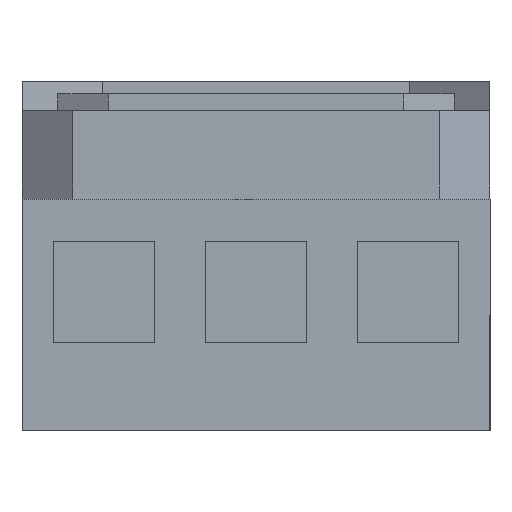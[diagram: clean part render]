
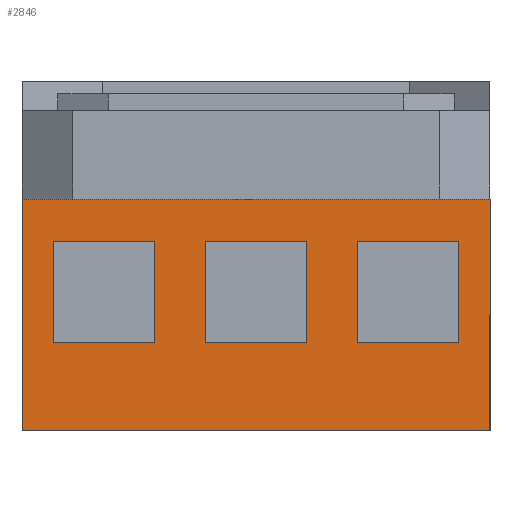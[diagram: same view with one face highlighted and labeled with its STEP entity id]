
A CAD part, front view. The second image highlights one B-rep face of the part: STEP entity #2846.
In plain terms, the highlighted planar face has unit normal (0, -1, 0).
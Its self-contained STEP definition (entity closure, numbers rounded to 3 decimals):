
#8 = VECTOR ( 'NONE', #3144, 1000. ) ;
#77 = VECTOR ( 'NONE', #1529, 1000. ) ;
#100 = VERTEX_POINT ( 'NONE', #267 ) ;
#125 = CARTESIAN_POINT ( 'NONE',  ( 55.5, -101., 83. ) ) ;
#172 = CARTESIAN_POINT ( 'NONE',  ( 12., -101., 21. ) ) ;
#228 = LINE ( 'NONE', #2568, #767 ) ;
#267 = CARTESIAN_POINT ( 'NONE',  ( -55.5, -101., 55. ) ) ;
#311 = DIRECTION ( 'NONE',  ( -1., 0., 0. ) ) ;
#316 = CARTESIAN_POINT ( 'NONE',  ( -48., -101., 45. ) ) ;
#318 = CARTESIAN_POINT ( 'NONE',  ( 55.5, -101., 55. ) ) ;
#357 = DIRECTION ( 'NONE',  ( 0., 0., -1. ) ) ;
#373 = VECTOR ( 'NONE', #1231, 1000. ) ;
#387 = CARTESIAN_POINT ( 'NONE',  ( -12., -101., 21. ) ) ;
#405 = VECTOR ( 'NONE', #357, 1000. ) ;
#437 = VECTOR ( 'NONE', #3073, 1000. ) ;
#445 = ORIENTED_EDGE ( 'NONE', *, *, #2459, .F. ) ;
#470 = VECTOR ( 'NONE', #2879, 1000. ) ;
#503 = FACE_OUTER_BOUND ( 'NONE', #2246, .T. ) ;
#512 = VERTEX_POINT ( 'NONE', #172 ) ;
#524 = ORIENTED_EDGE ( 'NONE', *, *, #2429, .F. ) ;
#530 = VERTEX_POINT ( 'NONE', #3210 ) ;
#588 = PLANE ( 'NONE',  #2073 ) ;
#619 = LINE ( 'NONE', #1273, #77 ) ;
#693 = VECTOR ( 'NONE', #1515, 1000. ) ;
#755 = ORIENTED_EDGE ( 'NONE', *, *, #2266, .T. ) ;
#757 = CARTESIAN_POINT ( 'NONE',  ( 24., -101., 21. ) ) ;
#767 = VECTOR ( 'NONE', #311, 1000. ) ;
#818 = VECTOR ( 'NONE', #1948, 1000. ) ;
#920 = VECTOR ( 'NONE', #2824, 1000. ) ;
#982 = DIRECTION ( 'NONE',  ( 0., 0., 1. ) ) ;
#1013 = CARTESIAN_POINT ( 'NONE',  ( -12., -101., 21. ) ) ;
#1025 = LINE ( 'NONE', #1061, #1687 ) ;
#1039 = CARTESIAN_POINT ( 'NONE',  ( -12., -101., 45. ) ) ;
#1055 = ORIENTED_EDGE ( 'NONE', *, *, #2447, .F. ) ;
#1058 = VERTEX_POINT ( 'NONE', #1941 ) ;
#1061 = CARTESIAN_POINT ( 'NONE',  ( -55.5, -101., 55. ) ) ;
#1101 = VERTEX_POINT ( 'NONE', #2231 ) ;
#1129 = FACE_BOUND ( 'NONE', #1794, .T. ) ;
#1202 = CARTESIAN_POINT ( 'NONE',  ( 24., -101., 45. ) ) ;
#1206 = VERTEX_POINT ( 'NONE', #2550 ) ;
#1209 = DIRECTION ( 'NONE',  ( -1., 0., 0. ) ) ;
#1231 = DIRECTION ( 'NONE',  ( 1., 0., 0. ) ) ;
#1260 = DIRECTION ( 'NONE',  ( 0., 0., 1. ) ) ;
#1269 = VERTEX_POINT ( 'NONE', #2842 ) ;
#1273 = CARTESIAN_POINT ( 'NONE',  ( -12., -101., 45. ) ) ;
#1284 = CARTESIAN_POINT ( 'NONE',  ( 12., -101., 45. ) ) ;
#1295 = DIRECTION ( 'NONE',  ( 1., 0., 0. ) ) ;
#1296 = DIRECTION ( 'NONE',  ( 0., 1., 0. ) ) ;
#1303 = ORIENTED_EDGE ( 'NONE', *, *, #2392, .F. ) ;
#1309 = ORIENTED_EDGE ( 'NONE', *, *, #2340, .F. ) ;
#1337 = VERTEX_POINT ( 'NONE', #316 ) ;
#1343 = VERTEX_POINT ( 'NONE', #1740 ) ;
#1378 = EDGE_LOOP ( 'NONE', ( #3187, #2875, #1303, #2925 ) ) ;
#1398 = VECTOR ( 'NONE', #1260, 1000. ) ;
#1515 = DIRECTION ( 'NONE',  ( 1., 0., 0. ) ) ;
#1529 = DIRECTION ( 'NONE',  ( -1., 0., 0. ) ) ;
#1543 = CARTESIAN_POINT ( 'NONE',  ( -55.5, -101., 83. ) ) ;
#1648 = LINE ( 'NONE', #2003, #2988 ) ;
#1660 = ORIENTED_EDGE ( 'NONE', *, *, #2320, .F. ) ;
#1675 = VERTEX_POINT ( 'NONE', #3242 ) ;
#1687 = VECTOR ( 'NONE', #1295, 1000. ) ;
#1737 = DIRECTION ( 'NONE',  ( 0., 0., -1. ) ) ;
#1740 = CARTESIAN_POINT ( 'NONE',  ( 12., -101., 45. ) ) ;
#1794 = EDGE_LOOP ( 'NONE', ( #3123, #3044, #524, #2503 ) ) ;
#1811 = FACE_BOUND ( 'NONE', #3148, .T. ) ;
#1824 = DIRECTION ( 'NONE',  ( 1., 0., 0. ) ) ;
#1844 = VERTEX_POINT ( 'NONE', #1202 ) ;
#1881 = VERTEX_POINT ( 'NONE', #2578 ) ;
#1938 = LINE ( 'NONE', #1039, #8 ) ;
#1941 = CARTESIAN_POINT ( 'NONE',  ( -24., -101., 45. ) ) ;
#1948 = DIRECTION ( 'NONE',  ( 0., 0., -1. ) ) ;
#1949 = VERTEX_POINT ( 'NONE', #318 ) ;
#2003 = CARTESIAN_POINT ( 'NONE',  ( -48., -101., 45. ) ) ;
#2014 = CARTESIAN_POINT ( 'NONE',  ( 24., -101., 45. ) ) ;
#2022 = LINE ( 'NONE', #2850, #1398 ) ;
#2024 = VERTEX_POINT ( 'NONE', #2385 ) ;
#2073 = AXIS2_PLACEMENT_3D ( 'NONE', #1543, #1296, #3173 ) ;
#2147 = LINE ( 'NONE', #2213, #818 ) ;
#2213 = CARTESIAN_POINT ( 'NONE',  ( -55.5, -101., 83. ) ) ;
#2227 = VECTOR ( 'NONE', #1824, 1000. ) ;
#2231 = CARTESIAN_POINT ( 'NONE',  ( -55.5, -101., 0. ) ) ;
#2246 = EDGE_LOOP ( 'NONE', ( #1055, #445, #755, #3063 ) ) ;
#2266 = EDGE_CURVE ( 'NONE', #100, #1101, #2147, .T. ) ;
#2320 = EDGE_CURVE ( 'NONE', #1058, #1337, #3249, .T. ) ;
#2340 = EDGE_CURVE ( 'NONE', #2024, #1058, #3177, .T. ) ;
#2348 = EDGE_CURVE ( 'NONE', #1881, #2024, #2440, .T. ) ;
#2360 = LINE ( 'NONE', #757, #373 ) ;
#2361 = EDGE_CURVE ( 'NONE', #1337, #1881, #1648, .T. ) ;
#2366 = EDGE_CURVE ( 'NONE', #1269, #2947, #2360, .T. ) ;
#2383 = EDGE_CURVE ( 'NONE', #1844, #1269, #3072, .T. ) ;
#2385 = CARTESIAN_POINT ( 'NONE',  ( -24., -101., 21. ) ) ;
#2392 = EDGE_CURVE ( 'NONE', #1206, #1844, #228, .T. ) ;
#2399 = LINE ( 'NONE', #125, #405 ) ;
#2408 = EDGE_CURVE ( 'NONE', #2947, #1206, #2022, .T. ) ;
#2410 = EDGE_CURVE ( 'NONE', #2894, #512, #2730, .T. ) ;
#2426 = EDGE_CURVE ( 'NONE', #530, #2894, #1938, .T. ) ;
#2429 = EDGE_CURVE ( 'NONE', #1343, #530, #619, .T. ) ;
#2440 = LINE ( 'NONE', #2796, #437 ) ;
#2443 = EDGE_CURVE ( 'NONE', #512, #1343, #3122, .T. ) ;
#2447 = EDGE_CURVE ( 'NONE', #1949, #1675, #2399, .T. ) ;
#2459 = EDGE_CURVE ( 'NONE', #100, #1949, #1025, .T. ) ;
#2460 = ORIENTED_EDGE ( 'NONE', *, *, #2361, .F. ) ;
#2467 = EDGE_CURVE ( 'NONE', #1101, #1675, #2945, .T. ) ;
#2503 = ORIENTED_EDGE ( 'NONE', *, *, #2443, .F. ) ;
#2525 = VECTOR ( 'NONE', #982, 1000. ) ;
#2529 = CARTESIAN_POINT ( 'NONE',  ( -24., -101., 45. ) ) ;
#2550 = CARTESIAN_POINT ( 'NONE',  ( 48., -101., 45. ) ) ;
#2568 = CARTESIAN_POINT ( 'NONE',  ( 24., -101., 45. ) ) ;
#2578 = CARTESIAN_POINT ( 'NONE',  ( -48., -101., 21. ) ) ;
#2612 = VECTOR ( 'NONE', #1209, 1000. ) ;
#2617 = CARTESIAN_POINT ( 'NONE',  ( -55.5, -101., 0. ) ) ;
#2681 = CARTESIAN_POINT ( 'NONE',  ( 48., -101., 21. ) ) ;
#2730 = LINE ( 'NONE', #1013, #693 ) ;
#2785 = CARTESIAN_POINT ( 'NONE',  ( -24., -101., 45. ) ) ;
#2796 = CARTESIAN_POINT ( 'NONE',  ( -24., -101., 21. ) ) ;
#2807 = ORIENTED_EDGE ( 'NONE', *, *, #2348, .F. ) ;
#2824 = DIRECTION ( 'NONE',  ( 0., 0., -1. ) ) ;
#2842 = CARTESIAN_POINT ( 'NONE',  ( 24., -101., 21. ) ) ;
#2846 = ADVANCED_FACE ( 'NONE', ( #1811, #3238, #1129, #503 ), #588, .F. ) ;
#2850 = CARTESIAN_POINT ( 'NONE',  ( 48., -101., 45. ) ) ;
#2875 = ORIENTED_EDGE ( 'NONE', *, *, #2383, .F. ) ;
#2879 = DIRECTION ( 'NONE',  ( 0., 0., 1. ) ) ;
#2894 = VERTEX_POINT ( 'NONE', #387 ) ;
#2925 = ORIENTED_EDGE ( 'NONE', *, *, #2408, .F. ) ;
#2945 = LINE ( 'NONE', #2617, #2227 ) ;
#2947 = VERTEX_POINT ( 'NONE', #2681 ) ;
#2988 = VECTOR ( 'NONE', #1737, 1000. ) ;
#3044 = ORIENTED_EDGE ( 'NONE', *, *, #2426, .F. ) ;
#3063 = ORIENTED_EDGE ( 'NONE', *, *, #2467, .T. ) ;
#3072 = LINE ( 'NONE', #2014, #920 ) ;
#3073 = DIRECTION ( 'NONE',  ( 1., 0., 0. ) ) ;
#3122 = LINE ( 'NONE', #1284, #470 ) ;
#3123 = ORIENTED_EDGE ( 'NONE', *, *, #2410, .F. ) ;
#3144 = DIRECTION ( 'NONE',  ( 0., 0., -1. ) ) ;
#3148 = EDGE_LOOP ( 'NONE', ( #1660, #1309, #2807, #2460 ) ) ;
#3173 = DIRECTION ( 'NONE',  ( 0., 0., 1. ) ) ;
#3177 = LINE ( 'NONE', #2529, #2525 ) ;
#3187 = ORIENTED_EDGE ( 'NONE', *, *, #2366, .F. ) ;
#3210 = CARTESIAN_POINT ( 'NONE',  ( -12., -101., 45. ) ) ;
#3238 = FACE_BOUND ( 'NONE', #1378, .T. ) ;
#3242 = CARTESIAN_POINT ( 'NONE',  ( 55.5, -101., 0. ) ) ;
#3249 = LINE ( 'NONE', #2785, #2612 ) ;
